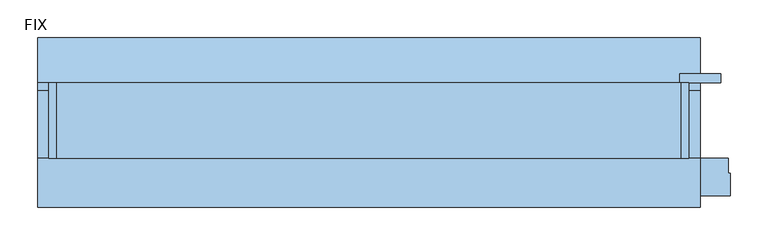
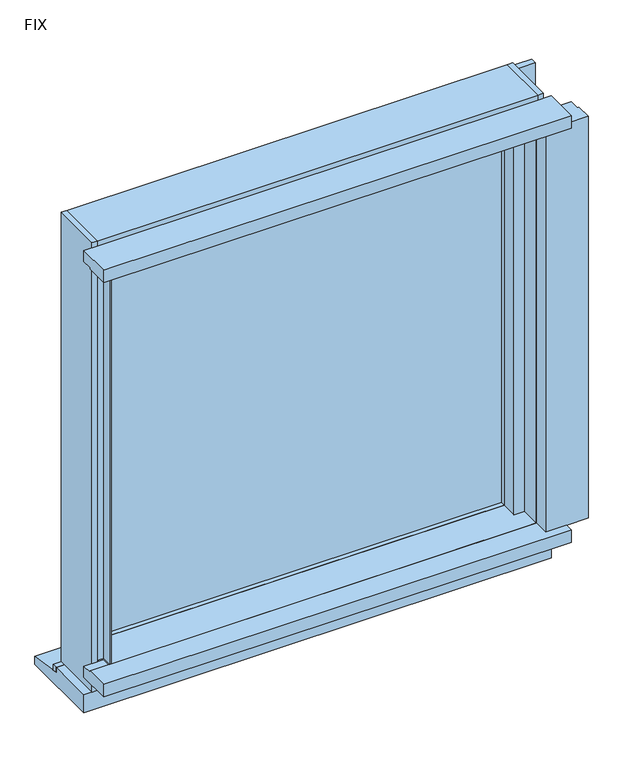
"""IFC4 building model written with IfcOpenShell, lengths in millimetres: window geometry, FNSⅡ100R_個別防火_RC枠_単窓 : FIX."""

from ifc_helpers import new_model, si_unit, frame, origin, place, context, project, spatial, polyline, outline, extrude, faceted_brep, source, transform, mapped, element, save


def fix_dac33f9e(model_context):
    return source(origin(), model_context, "Body", "SolidModel", [
        extrude(outline(polyline([(-380.0, 20.6), (380.0, 20.6), (380.0, 14.6), (-380.0, 14.6), (-380.0, 20.6)])), frame((0.0, 0.0, 900.0), z_axis=(0.0, 0.0, 1.0), x_axis=(1.0, 0.0, 0.0)), (0.0, 0.0, 1.0), 780.0),
        extrude(outline(polyline([(-380.0, 38.6), (380.0, 38.6), (380.0, 32.6), (-380.0, 32.6), (-380.0, 38.6)])), frame((0.0, 0.0, 900.0), z_axis=(0.0, 0.0, 1.0), x_axis=(1.0, 0.0, 0.0)), (0.0, 0.0, 1.0), 780.0),
        faceted_brep([(-380.0, 5.0, 1680.0), (-415.0, 5.0, 1680.0), (-415.0, 5.0, 900.0), (-380.0, 5.0, 900.0), (-380.0, 55.0, 1680.0), (-380.0, 55.0, 900.0), (-415.0, 55.0, 1735.0), (-415.0, -45.0, 1735.0), (-415.0, -45.0, 840.0), (-415.0, 55.0, 840.0), (-415.0, 55.0, 900.0), (-415.0, 55.0, 1680.0), (-425.0, 55.0, 1735.0), (-425.0, -45.0, 1735.0), (-425.0, 55.0, 840.0), (-425.0, -45.0, 840.0)], [[[0, 1, 2, 3]], [[4, 0, 3, 5]], [[6, 7, 8, 9, 10, 2, 1, 11]], [[5, 3, 2, 10]], [[12, 13, 7, 6]], [[14, 9, 8, 15]], [[13, 12, 14, 15]], [[7, 13, 15, 8]], [[12, 6, 11, 4, 5, 10, 9, 14]], [[4, 11, 1, 0]]]),
        faceted_brep([(380.0, 5.0, 1680.0), (380.0, 55.0, 1680.0), (380.0, 55.0, 900.0), (380.0, 5.0, 900.0), (415.0, 5.0, 1680.0), (415.0, 5.0, 900.0), (425.0, -45.0, 1735.0), (415.0, -45.0, 1735.0), (415.0, -45.0, 840.0), (425.0, -45.0, 840.0), (425.0, 55.0, 1735.0), (425.0, 55.0, 840.0), (415.0, 55.0, 900.0), (415.0, 55.0, 1735.0), (415.0, 55.0, 840.0), (415.0, 55.0, 1680.0)], [[[0, 1, 2, 3]], [[4, 0, 3, 5]], [[6, 7, 8, 9]], [[10, 6, 9, 11]], [[5, 3, 2, 12]], [[10, 13, 7, 6]], [[11, 9, 8, 14]], [[13, 10, 11, 14, 12, 2, 1, 15]], [[7, 13, 15, 4, 5, 12, 14, 8]], [[15, 1, 0, 4]]]),
        extrude(outline(polyline([(400.0, -65.0), (400.0, -26.5), (380.0, -26.5), (380.0, 5.0), (415.0, 5.0), (415.0, -45.0), (403.0, -45.0), (403.0, -65.0), (400.0, -65.0)])), frame((0.0, 0.0, 900.0), z_axis=(0.0, 0.0, 1.0), x_axis=(1.0, 0.0, 0.0)), (0.0, 0.0, 1.0), 800.0),
        extrude(outline(polyline([(-415.0, -45.0), (-415.0, 5.0), (-380.0, 5.0), (-380.0, -26.5), (-400.0, -26.5), (-400.0, -65.0), (-403.0, -65.0), (-403.0, -45.0), (-415.0, -45.0)])), frame((0.0, 0.0, 900.0), z_axis=(0.0, 0.0, 1.0), x_axis=(1.0, 0.0, 0.0)), (0.0, 0.0, 1.0), 800.0),
        extrude(outline(polyline([(-45.0, 884.0), (-45.0, 897.0), (-65.0, 897.0), (-65.0, 900.0), (5.0, 900.0), (5.0, 884.0), (-45.0, 884.0)])), frame((-403.0, 0.0, 0.0), z_axis=(1.0, 0.0, 0.0), x_axis=(0.0, 1.0, 0.0)), (0.0, 0.0, 1.0), 806.0),
        extrude(outline(polyline([(55.0, 840.0), (-45.0, 840.0), (-45.0, 884.0), (5.0, 884.0), (5.0, 900.0), (55.0, 900.0), (55.0, 870.0), (36.0, 870.0), (36.0, 850.0), (55.0, 850.0), (55.0, 840.0)])), frame((-415.0, 0.0, 0.0), z_axis=(1.0, 0.0, 0.0), x_axis=(0.0, 1.0, 0.0)), (0.0, 0.0, 1.0), 830.0),
        extrude(outline(polyline([(5.0, 1677.0), (-29.0, 1677.0), (-29.0, 1700.0), (-65.0, 1700.0), (-65.0, 1703.0), (-45.0, 1703.0), (-45.0, 1715.0), (5.0, 1715.0), (5.0, 1677.0)])), frame((-403.0, 0.0, 0.0), z_axis=(1.0, 0.0, 0.0), x_axis=(0.0, 1.0, 0.0)), (0.0, 0.0, 1.0), 806.0),
        extrude(outline(polyline([(55.0, 1680.0), (5.0, 1680.0), (5.0, 1715.0), (-45.0, 1715.0), (-45.0, 1735.0), (55.0, 1735.0), (55.0, 1680.0)])), frame((-415.0, 0.0, 0.0), z_axis=(1.0, 0.0, 0.0), x_axis=(0.0, 1.0, 0.0)), (0.0, 0.0, 1.0), 830.0),
        extrude(outline(polyline([(-110.0, 900.0), (-65.0, 900.0), (-65.0, 897.0), (-45.0, 897.0), (-45.0, 875.0), (-110.0, 875.0), (-110.0, 900.0)])), frame((-440.0, 0.0, 0.0), z_axis=(1.0, 0.0, 0.0), x_axis=(0.0, 1.0, 0.0)), (0.0, 0.0, 1.0), 880.0),
        extrude(outline(polyline([(45.0, 840.0), (55.0, 840.0), (55.0, 828.4285714), (45.0, 830.0), (45.0, 840.0)])), frame((-440.0, 0.0, 0.0), z_axis=(1.0, 0.0, 0.0), x_axis=(0.0, 1.0, 0.0)), (0.0, 0.0, 1.0), 880.0),
        extrude(outline(polyline([(-45.0, 804.0), (-45.0, 840.0), (45.0, 840.0), (45.0, 830.0), (115.0, 819.0), (115.0, 804.0), (-45.0, 804.0)])), frame((-440.0, 0.0, 0.0), z_axis=(1.0, 0.0, 0.0), x_axis=(0.0, 1.0, 0.0)), (0.0, 0.0, 1.0), 880.0),
        extrude(outline(polyline([(403.0, -65.0), (403.0, -45.0), (477.0, -45.0), (477.0, -65.0), (480.0, -65.0), (480.0, -95.0), (400.0, -95.0), (400.0, -65.0), (403.0, -65.0)])), frame((0.0, 0.0, 900.0), z_axis=(0.0, 0.0, 1.0), x_axis=(1.0, 0.0, 0.0)), (0.0, 0.0, 1.0), 800.0),
        extrude(outline(polyline([(467.5, 55.0), (412.5, 55.0), (412.5, 67.0), (467.5, 67.0), (467.5, 55.0)])), frame((0.0, 0.0, 840.0), z_axis=(0.0, 0.0, 1.0), x_axis=(1.0, 0.0, 0.0)), (0.0, 0.0, 1.0), 880.0),
        extrude(outline(polyline([(-110.0, 1725.0), (-45.0, 1725.0), (-45.0, 1703.0), (-65.0, 1703.0), (-65.0, 1700.0), (-110.0, 1700.0), (-110.0, 1725.0)])), frame((-440.0, 0.0, 0.0), z_axis=(1.0, 0.0, 0.0), x_axis=(0.0, 1.0, 0.0)), (0.0, 0.0, 1.0), 880.0),
    ])


if __name__ == "__main__":
    model = new_model("IFC4")
    model_context = context("Model", 3, world=origin())
    ifc_project = project(units=[si_unit("LENGTHUNIT", "METRE", prefix="MILLI")], contexts=[model_context])
    site = spatial("IfcSite", under=ifc_project)
    building = spatial("IfcBuilding", under=site)
    placement = place(None, origin())
    fix_shape = fix_dac33f9e(model_context)
    element("IfcWindow", 1, ObjectType="FNSⅡ100R_個別防火_RC枠_単窓 : FIX", at=placement, inside=building, context=model_context, shape_type="MappedRepresentation", body=[
        mapped(fix_shape, transform((0.0, 0.0, 0.0), x_axis=(1.0, 0.0, 0.0), y_axis=(0.0, 1.0, 0.0), z_axis=(0.0, 0.0, 1.0))),
    ])
    save(model, "model.ifc")
